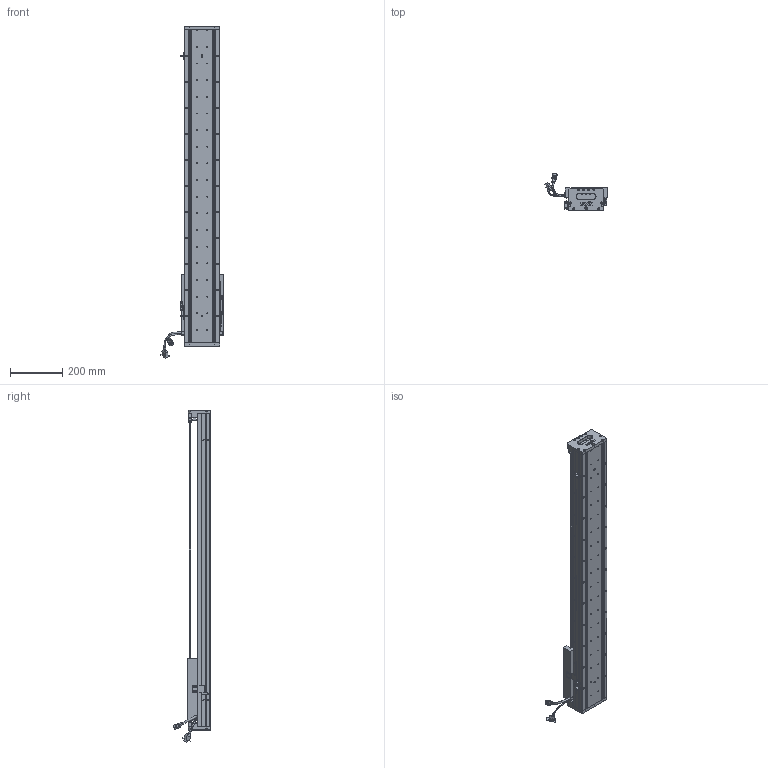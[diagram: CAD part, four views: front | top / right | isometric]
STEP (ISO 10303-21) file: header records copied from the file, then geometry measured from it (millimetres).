
FILE_DESCRIPTION (( 'STEP AP203' ), '1' );
FILE_NAME ('Z3-RY140D-1-L500-B-K.SLDASM_0900.step', '2021-05-17T08:00:56', ( '盈信电脑' ), ( '东莞市道滘镇水果街19号' ), 'SwSTEP 2.0', 'SolidWorks 2016', '' );
FILE_SCHEMA (( 'CONFIG_CONTROL_DESIGN' ));
Length unit declared in the file: millimetre
Products named in the file (36): LABEL-Part-1; Z-RY140詩湍奻揤裔; SCREW-M1.6-3; Z3-RY140圉猾敕臏賑輸(21遴); SCREW-M1.6; Z-140詩湍傷裔啣; 140雄赽晤鎢ん堤盄; Z3-RY140-L500直线电机模组底座_0900; SCALE-Part-1; Z3-RY140-L500詩湍100mm遵_0900; SCREW-M1.7-1; 140蚥薯蝶輸; PBU_SHEET; 080黍杅芛假蚾釱21遴; COVER-Part-1; HARNESS-Part-2; SCREW-M1.6-2; SEAL-Part-1; LABEL; 覜茼ん672; 140-Z-臏賑輸盄裔(21遴); COVER; HARNESS-Part-1; SCREW-M1.6-1; HOLDER0; Z3-RY140D-1-L500-B-K.SLDASM_0900; SCREW-M1.7; SHIELDPLATE; PSLH080_PSLF2; SCALE-Part-2; Z-RY140感应器672光电感应片; Z-RY140詩湍狟揤裔; HARNESS; 榋妏寠巭燃_暯_M2_2; SCALE; SEAL
Assembly tree (41 placements, depth 4):
  Z3-RY140D-1-L500-B-K.SLDASM_0900
    Z3-RY140-L500直线电机模组底座_0900
    Z-RY140感应器672光电感应片
    Z3-RY140圉猾敕臏賑輸(21遴)
    覜茼ん672  x3
    Z3-RY140-L500詩湍100mm遵_0900
    PSLH080_PSLF2
      SCALE
        SCALE-Part-1
        SCALE-Part-2
      HARNESS
        HARNESS-Part-1
        HARNESS-Part-2
      LABEL
        LABEL-Part-1
      COVER
        COVER-Part-1
      SEAL
        SEAL-Part-1
      榋妏寠巭燃_暯_M2_2
      SHIELDPLATE
      SCREW-M1.7
      SCREW-M1.7-1
      PBU_SHEET
      SCREW-M1.6
      SCREW-M1.6-1
      SCREW-M1.6-2
      SCREW-M1.6-3
      HOLDER0
    080黍杅芛假蚾釱21遴
    140-Z-臏賑輸盄裔(21遴)
    Z-140詩湍傷裔啣  x2
    Z-RY140詩湍狟揤裔  x2
    Z-RY140詩湍奻揤裔  x2
    140蚥薯蝶輸  x2
    140雄赽晤鎢ん堤盄
Bounding box: 239.84 x 143.88 x 1275.88 mm (x, y, z)
Volume: 4616916.8 mm3; surface area: 1190194.4 mm2
Topology: 36 solids, 36 shells, 3058 faces, 8086 edges, 5115 vertices
Faces by surface type: cylinder 1468, plane 1158, cone 310, torus 69, bspline 53
Entity records: 90322 total; most frequent: CARTESIAN_POINT 23019, ORIENTED_EDGE 13276, DIRECTION 13078, EDGE_CURVE 6638, AXIS2_PLACEMENT_3D 4822, VERTEX_POINT 4283, LINE 3434, VECTOR 3434
